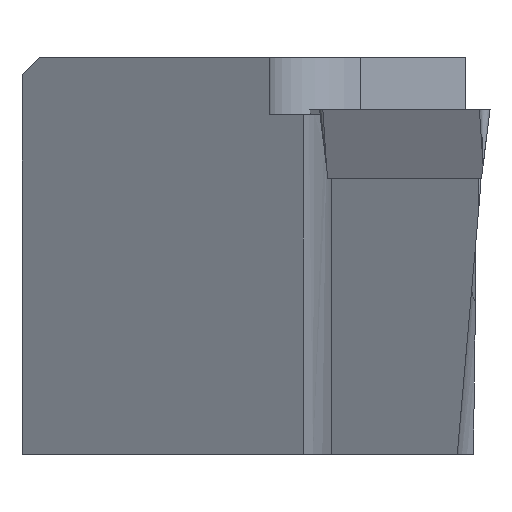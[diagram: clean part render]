
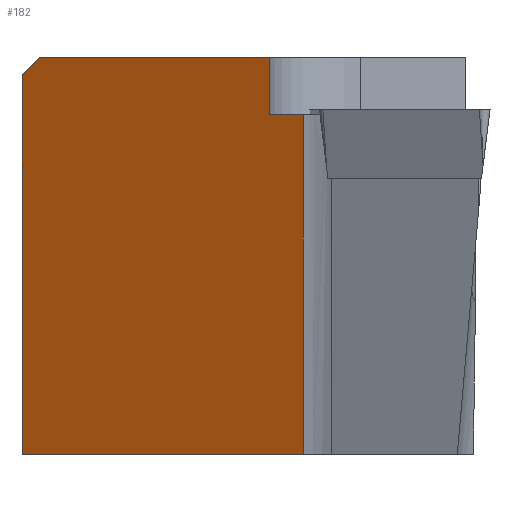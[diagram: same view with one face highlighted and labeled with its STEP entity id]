
A CAD part, left-side view. The second image highlights one B-rep face of the part: STEP entity #182.
In plain terms, the highlighted planar face has unit normal (-0.848, 0.53, 0).
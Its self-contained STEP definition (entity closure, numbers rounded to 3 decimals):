
#87=PLANE('',#1464);
#182=ADVANCED_FACE('',(#280),#87,.T.);
#280=FACE_OUTER_BOUND('',#353,.T.);
#353=EDGE_LOOP('',(#510,#511,#512,#513,#514,#515,#516));
#510=ORIENTED_EDGE('',*,*,#948,.F.);
#511=ORIENTED_EDGE('',*,*,#949,.T.);
#512=ORIENTED_EDGE('',*,*,#950,.F.);
#513=ORIENTED_EDGE('',*,*,#951,.T.);
#514=ORIENTED_EDGE('',*,*,#952,.T.);
#515=ORIENTED_EDGE('',*,*,#953,.F.);
#516=ORIENTED_EDGE('',*,*,#945,.F.);
#812=VERTEX_POINT('',#2257);
#813=VERTEX_POINT('',#2258);
#814=VERTEX_POINT('',#2263);
#815=VERTEX_POINT('',#2265);
#816=VERTEX_POINT('',#2267);
#817=VERTEX_POINT('',#2269);
#818=VERTEX_POINT('',#2271);
#945=EDGE_CURVE('',#812,#813,#1188,.T.);
#948=EDGE_CURVE('',#814,#812,#1191,.T.);
#949=EDGE_CURVE('',#814,#815,#1192,.T.);
#950=EDGE_CURVE('',#816,#815,#1193,.T.);
#951=EDGE_CURVE('',#816,#817,#1194,.T.);
#952=EDGE_CURVE('',#817,#818,#1195,.T.);
#953=EDGE_CURVE('',#813,#818,#1196,.T.);
#1188=LINE('',#2256,#1274);
#1191=LINE('',#2262,#1277);
#1192=LINE('',#2264,#1278);
#1193=LINE('',#2266,#1279);
#1194=LINE('',#2268,#1280);
#1195=LINE('',#2270,#1281);
#1196=LINE('',#2272,#1282);
#1274=VECTOR('',#1712,1.);
#1277=VECTOR('',#1717,1.);
#1278=VECTOR('',#1718,1.);
#1279=VECTOR('',#1719,1.);
#1280=VECTOR('',#1720,1.);
#1281=VECTOR('',#1721,1.);
#1282=VECTOR('',#1722,1.);
#1464=AXIS2_PLACEMENT_3D('',#2273,#1723,#1724);
#1712=DIRECTION('',(0.,0.,-1.));
#1717=DIRECTION('',(-0.53,-0.848,0.));
#1718=DIRECTION('',(0.404,0.647,-0.647));
#1719=DIRECTION('',(0.,0.,1.));
#1720=DIRECTION('',(-0.53,-0.848,0.));
#1721=DIRECTION('',(0.,0.,1.));
#1722=DIRECTION('',(-0.53,-0.848,0.));
#1723=DIRECTION('',(-0.848,0.53,0.));
#1724=DIRECTION('',(-0.53,-0.848,0.));
#2256=CARTESIAN_POINT('',(-17.15,0.7,35.));
#2257=CARTESIAN_POINT('',(-17.15,0.7,13.));
#2258=CARTESIAN_POINT('',(-17.15,0.7,9.7));
#2262=CARTESIAN_POINT('',(-12.649,7.904,13.));
#2263=CARTESIAN_POINT('',(-8.839,14.,13.));
#2264=CARTESIAN_POINT('',(-20.119,-4.051,31.051));
#2265=CARTESIAN_POINT('',(-8.214,15.,12.));
#2266=CARTESIAN_POINT('',(-8.214,15.,35.));
#2267=CARTESIAN_POINT('',(-8.214,15.,-9.9));
#2268=CARTESIAN_POINT('',(-12.649,7.904,-9.9));
#2269=CARTESIAN_POINT('',(-18.344,-1.212,-9.9));
#2270=CARTESIAN_POINT('',(-18.344,-1.212,35.));
#2271=CARTESIAN_POINT('',(-18.344,-1.212,9.7));
#2272=CARTESIAN_POINT('',(-18.344,-1.212,9.7));
#2273=CARTESIAN_POINT('',(-18.344,-1.212,35.));
